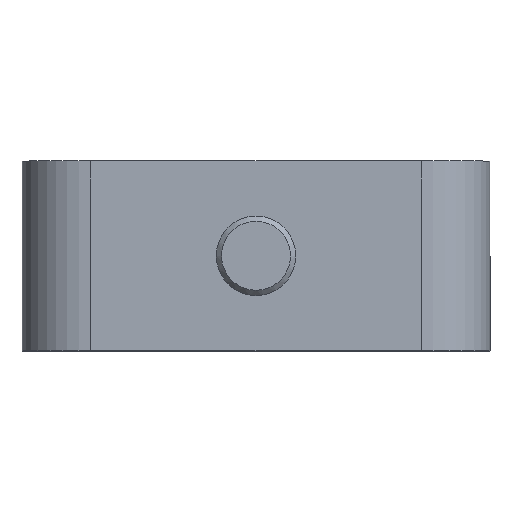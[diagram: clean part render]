
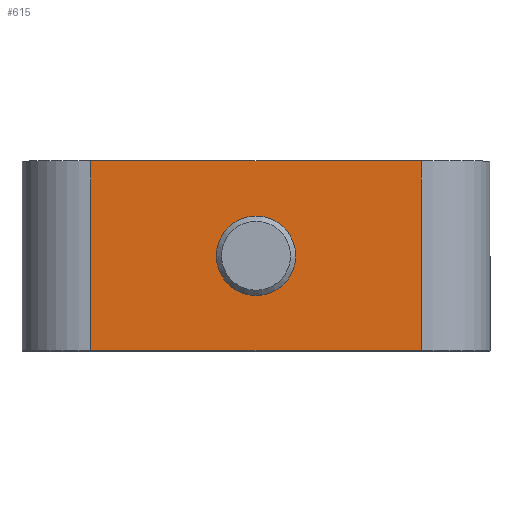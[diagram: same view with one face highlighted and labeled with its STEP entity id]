
A CAD part, top view. The second image highlights one B-rep face of the part: STEP entity #615.
In plain terms, the highlighted planar face has unit normal (0, 0, 1) as drawn and (-1, 0, 0) by its records, which use the part's own axes.
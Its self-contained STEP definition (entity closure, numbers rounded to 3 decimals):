
#54=FACE_BOUND('',#150,.T.);
#79=PLANE('',#759);
#110=FACE_OUTER_BOUND('',#149,.T.);
#149=EDGE_LOOP('',(#514,#515,#516,#517));
#150=EDGE_LOOP('',(#518,#519));
#188=LINE('',#1124,#223);
#189=LINE('',#1127,#224);
#190=LINE('',#1129,#225);
#191=LINE('',#1130,#226);
#223=VECTOR('',#906,10.);
#224=VECTOR('',#909,10.);
#225=VECTOR('',#910,10.);
#226=VECTOR('',#911,10.);
#257=CIRCLE('',#753,3.459);
#258=CIRCLE('',#754,3.459);
#305=VERTEX_POINT('',#1109);
#306=VERTEX_POINT('',#1110);
#308=VERTEX_POINT('',#1117);
#311=VERTEX_POINT('',#1122);
#312=VERTEX_POINT('',#1126);
#313=VERTEX_POINT('',#1128);
#377=EDGE_CURVE('',#305,#306,#257,.T.);
#378=EDGE_CURVE('',#306,#305,#258,.T.);
#384=EDGE_CURVE('',#311,#308,#188,.T.);
#385=EDGE_CURVE('',#312,#311,#189,.T.);
#386=EDGE_CURVE('',#313,#312,#190,.T.);
#387=EDGE_CURVE('',#308,#313,#191,.T.);
#514=ORIENTED_EDGE('',*,*,#384,.F.);
#515=ORIENTED_EDGE('',*,*,#385,.F.);
#516=ORIENTED_EDGE('',*,*,#386,.F.);
#517=ORIENTED_EDGE('',*,*,#387,.F.);
#518=ORIENTED_EDGE('',*,*,#377,.T.);
#519=ORIENTED_EDGE('',*,*,#378,.T.);
#615=ADVANCED_FACE('',(#110,#54),#79,.T.);
#753=AXIS2_PLACEMENT_3D('',#1111,#892,#893);
#754=AXIS2_PLACEMENT_3D('',#1112,#894,#895);
#759=AXIS2_PLACEMENT_3D('',#1125,#907,#908);
#892=DIRECTION('center_axis',(1.,0.,0.));
#893=DIRECTION('ref_axis',(0.,0.,1.));
#894=DIRECTION('center_axis',(1.,0.,0.));
#895=DIRECTION('ref_axis',(0.,0.,1.));
#906=DIRECTION('',(0.,0.,1.));
#907=DIRECTION('center_axis',(-1.,0.,0.));
#908=DIRECTION('ref_axis',(0.,-1.,0.));
#909=DIRECTION('',(0.,1.,0.));
#910=DIRECTION('',(0.,0.,-1.));
#911=DIRECTION('',(0.,-1.,0.));
#1109=CARTESIAN_POINT('',(-10.2,0.,3.459));
#1110=CARTESIAN_POINT('',(-10.2,0.,-3.459));
#1111=CARTESIAN_POINT('Origin',(-10.2,0.,0.));
#1112=CARTESIAN_POINT('Origin',(-10.2,0.,0.));
#1117=CARTESIAN_POINT('',(-10.2,14.35,8.25));
#1122=CARTESIAN_POINT('',(-10.2,14.35,-8.25));
#1124=CARTESIAN_POINT('',(-10.2,14.35,0.));
#1125=CARTESIAN_POINT('Origin',(-10.2,20.35,0.));
#1126=CARTESIAN_POINT('',(-10.2,-14.35,-8.25));
#1127=CARTESIAN_POINT('',(-10.2,20.35,-8.25));
#1128=CARTESIAN_POINT('',(-10.2,-14.35,8.25));
#1129=CARTESIAN_POINT('',(-10.2,-14.35,0.));
#1130=CARTESIAN_POINT('',(-10.2,20.35,8.25));
